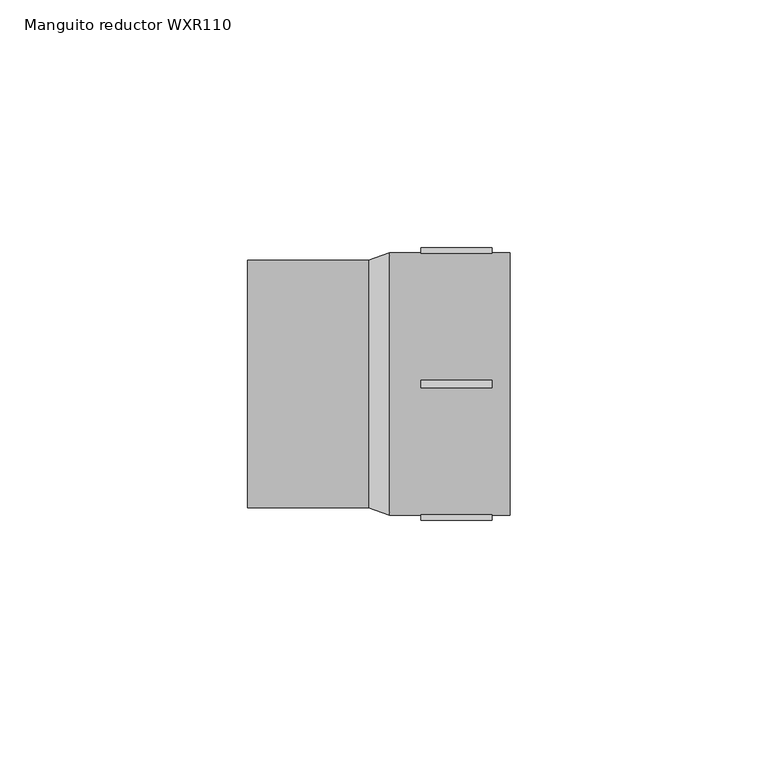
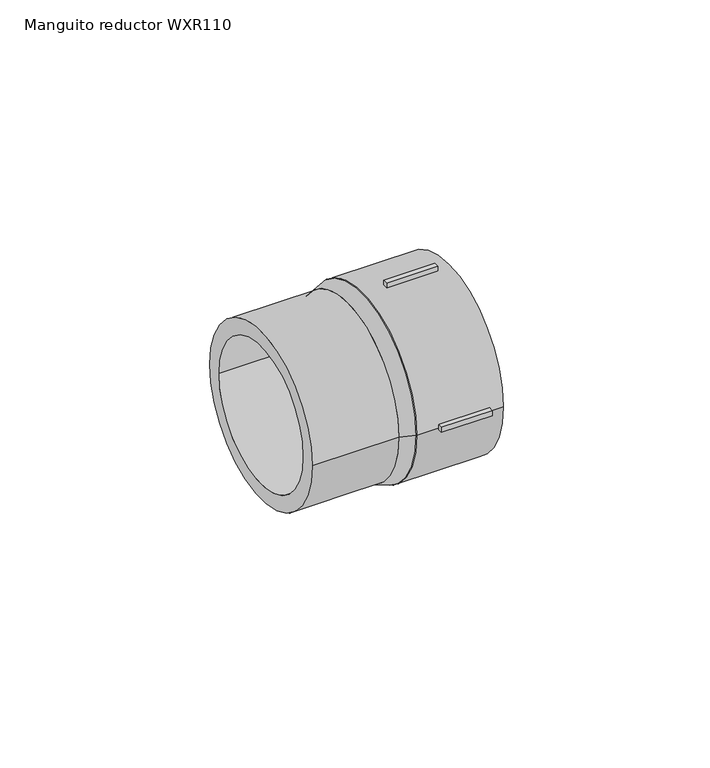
"""IFC4 building model written with IfcOpenShell, lengths in millimetres: pipe fitting geometry, EGB_VASEN_ PPR_Manguito reductor WXR110 : Manguito reductor WXR110."""

from ifc_helpers import new_model, si_unit, point, frame, origin, origin_2d, place, context, project, spatial, polyline, circle_curve, trimmed, segment, composite_curve, outline, extrude, source, transform, mapped, element, save
from ifc_brep_helpers import plane_surface, revolved_surface, advanced_brep


def manguito_reductor_wxr110_ab63a0e8(model_context):
    return source(origin(), model_context, "Body", "SolidModel", [
        extrude(outline(polyline([(8.5, -0.75), (8.5, 0.75), (22.9, 0.75), (22.9, -0.75), (8.5, -0.75)])), frame((0.0, 0.0, 25.5), z_axis=(0.0, 0.0, 1.0), x_axis=(1.0, 0.0, 0.0)), (0.0, 0.0, 1.0), 2.0),
        extrude(outline(polyline([(8.5, -0.75), (8.5, 0.75), (22.9, 0.75), (22.9, -0.75), (8.5, -0.75)])), frame((0.0, 0.0, -27.5), z_axis=(0.0, 0.0, 1.0), x_axis=(1.0, 0.0, 0.0)), (0.0, 0.0, 1.0), 2.0),
        extrude(outline(polyline([(8.5, 25.5), (8.5, 27.5), (22.9, 27.5), (22.9, 25.5), (8.5, 25.5)])), frame((0.0, 0.0, -0.75), z_axis=(0.0, 0.0, 1.0), x_axis=(1.0, 0.0, 0.0)), (0.0, 0.0, 1.0), 1.5),
        extrude(outline(polyline([(8.5, -27.5), (8.5, -25.5), (22.9, -25.5), (22.9, -27.5), (8.5, -27.5)])), frame((0.0, 0.0, -0.75), z_axis=(0.0, 0.0, 1.0), x_axis=(1.0, 0.0, 0.0)), (0.0, 0.0, 1.0), 1.5),
        extrude(outline(composite_curve([segment(trimmed(circle_curve(origin_2d(), 26.5), [point((-26.5, 0.0))], [point((26.5, 0.0))], False, "CARTESIAN"), True, "CONTINUOUS"), segment(trimmed(circle_curve(origin_2d(), 26.5), [point((26.5, 0.0))], [point((-26.5, 0.0))], False, "CARTESIAN"), True, "CONTINUOUS")], self_intersect=False), holes=[composite_curve([segment(trimmed(circle_curve(origin_2d(), 20.0), [point((-20.0, 0.0))], [point((20.0, 0.0))], True, "CARTESIAN"), True, "CONTINUOUS"), segment(trimmed(circle_curve(origin_2d(), 20.0), [point((20.0, 0.0))], [point((-20.0, 0.0))], True, "CARTESIAN"), True, "CONTINUOUS")], self_intersect=False)]), frame((2.12, 0.0, 0.0), z_axis=(1.0, 0.0, 0.0), x_axis=(0.0, 1.0, 0.0)), (0.0, 0.0, 1.0), 24.38),
        extrude(outline(composite_curve([segment(trimmed(circle_curve(origin_2d(), 25.0), [point((-25.0, 0.0))], [point((25.0, 0.0))], False, "CARTESIAN"), True, "CONTINUOUS"), segment(trimmed(circle_curve(origin_2d(), 25.0), [point((25.0, 0.0))], [point((-25.0, 0.0))], False, "CARTESIAN"), True, "CONTINUOUS")], self_intersect=False), holes=[composite_curve([segment(trimmed(circle_curve(origin_2d(), 20.5), [point((-20.5, 0.0))], [point((20.5, 0.0))], True, "CARTESIAN"), True, "CONTINUOUS"), segment(trimmed(circle_curve(origin_2d(), 20.5), [point((20.5, 0.0))], [point((-20.5, 0.0))], True, "CARTESIAN"), True, "CONTINUOUS")], self_intersect=False)]), frame((-26.5, 0.0, 0.0), z_axis=(1.0, 0.0, 0.0), x_axis=(0.0, 1.0, 0.0)), (0.0, 0.0, 1.0), 24.38),
        advanced_brep(
        [(2.12, -26.5, 0.0), (2.12, 26.5, 0.0), (-2.12, -25.0, 0.0), (-2.12, 25.0, 0.0)],
        [
            (0, 1, circle_curve(frame((2.12, 0.0, 0.0), z_axis=(1.0, 0.0, 0.0), x_axis=(0.0, -1.0, 0.0)), 26.5)),
            (1, 0, circle_curve(frame((2.12, 0.0, 0.0), z_axis=(1.0, 0.0, 0.0), x_axis=(0.0, 1.0, 0.0)), 26.5)),
            (2, 3, circle_curve(frame((-2.12, 0.0, 0.0), z_axis=(-1.0, 0.0, 0.0), x_axis=(0.0, 1.0, 0.0)), 25.0)),
            (3, 2, circle_curve(frame((-2.12, 0.0, 0.0), z_axis=(-1.0, 0.0, 0.0), x_axis=(0.0, -1.0, 0.0)), 25.0)),
            (3, 1),
            (0, 2),
        ],
        [
            plane_surface(frame((2.12, 0.0, 0.0), z_axis=(1.0, 0.0, 0.0), x_axis=(0.0, 0.0, -1.0))),
            plane_surface(frame((-2.12, 0.0, 0.0), z_axis=(-1.0, 0.0, 0.0), x_axis=(0.0, 0.0, -1.0))),
            revolved_surface(polyline([(-2.1200000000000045, 25.000000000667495, 0.0), (2.1200000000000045, 26.5, 0.0)]), (-72.7866667, 0.0, 0.0), (1.0, 0.0, 0.0)),
            revolved_surface(polyline([(-2.1200000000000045, -25.000000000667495, 0.0), (2.1200000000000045, -26.5, 0.0)]), (-72.7866667, 0.0, 0.0), (1.0, 0.0, 0.0)),
        ],
        [
            (0, [[1, 2]]),
            (1, [[3, 4]]),
            (2, [[-4, 5, -1, 6]]),
            (3, [[-3, -6, -2, -5]]),
        ],
    ),
    ])


if __name__ == "__main__":
    model = new_model("IFC4")
    model_context = context("Model", 3, world=origin())
    ifc_project = project(units=[si_unit("LENGTHUNIT", "METRE", prefix="MILLI")], contexts=[model_context])
    site = spatial("IfcSite", under=ifc_project)
    building = spatial("IfcBuilding", under=site)
    placement = place(None, origin())
    manguito_reductor_wxr110_shape = manguito_reductor_wxr110_ab63a0e8(model_context)
    element("IfcPipeFitting", 1, ObjectType="EGB_VASEN_ PPR_Manguito reductor WXR110 : Manguito reductor WXR110", at=placement, inside=building, context=model_context, shape_type="MappedRepresentation", body=[
        mapped(manguito_reductor_wxr110_shape, transform((0.0, 0.0, 0.0), x_axis=(1.0, 0.0, 0.0), y_axis=(0.0, 1.0, 0.0), z_axis=(0.0, 0.0, 1.0))),
    ])
    save(model, "model.ifc")
